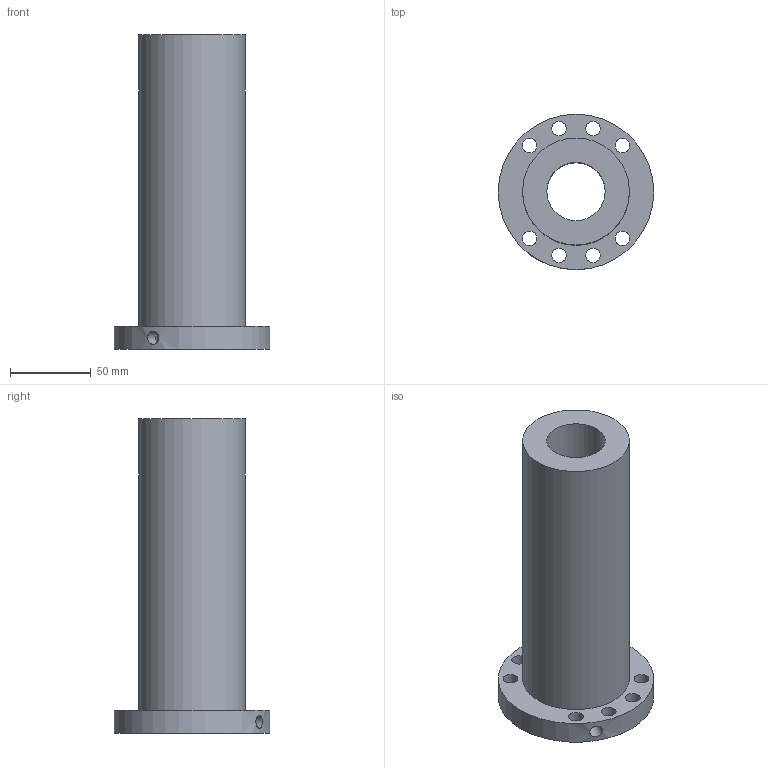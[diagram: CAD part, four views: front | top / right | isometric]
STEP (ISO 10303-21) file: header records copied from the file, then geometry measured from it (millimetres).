
FILE_DESCRIPTION(/* description */ (''),/* implementation_level */ '2;1');
FILE_NAME(/* name */ '36-36K2_635',/* time_stamp */ '2007-10-15T12:53:59+08:00',/* author */ (''),/* organization */ (''),/* preprocessor_version */ 'ST-DEVELOPER v11',/* originating_system */ 'UGS - NX 5.0',/* authorisation */ '');
FILE_SCHEMA (('CONFIG_CONTROL_DESIGN'));
Length unit declared in the file: millimetre
Products named in the file (1): 36-36K2_635
Bounding box: 96 x 96 x 194 mm (x, y, z)
Volume: 511489.7 mm3; surface area: 78646.8 mm2
Topology: 1 solids, 1 shells, 17 faces, 40 edges, 27 vertices
Faces by surface type: cylinder 13, plane 4
Full cylindrical faces by diameter (mm): 6 x1, 8 x1, 9 x8, 36 x1, 66 x1, 96 x1
Entity records: 668 total; most frequent: CARTESIAN_POINT 184, DIRECTION 84, FACE_BOUND 52, EDGE_LOOP 52, ORIENTED_EDGE 52, AXIS2_PLACEMENT_3D 42, VERTEX_POINT 26, EDGE_CURVE 26
